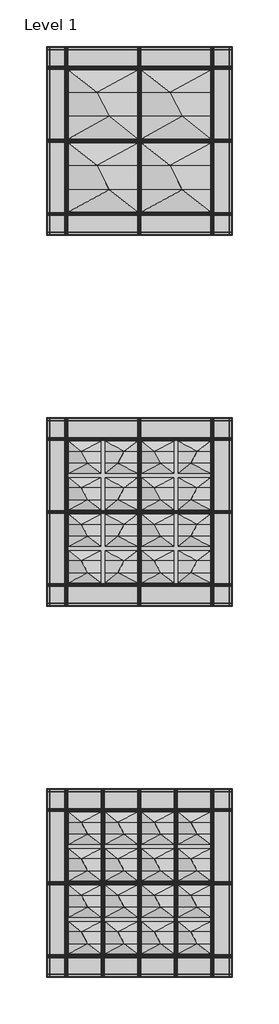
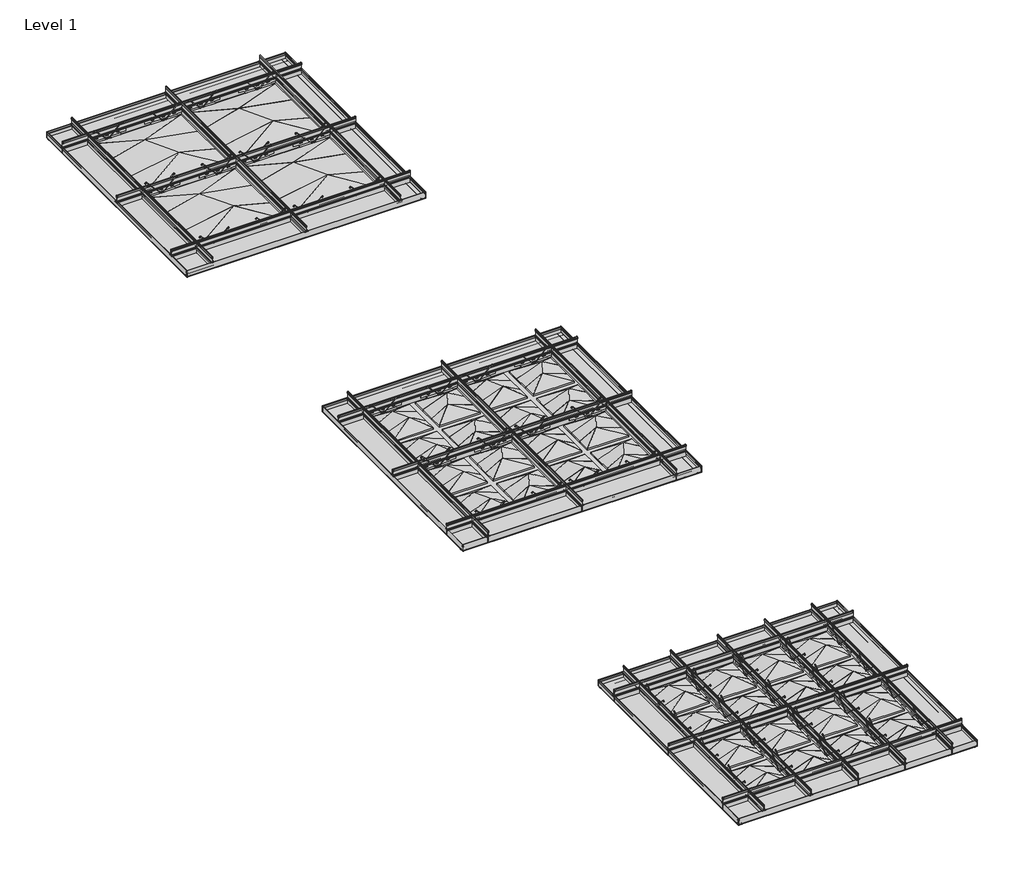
# One storey: 67 proxies.
"""IFC4 building model written with IfcOpenShell, lengths in millimetres."""

from ifc_helpers import new_model, si_unit, origin, place, context, project, spatial, transform, mapped, element, save
from components import generic_models_57989197, generic_models_a852b606, generic_models_ef213fe7, generic_models_b0d74349, generic_models_ea31196a, generic_models_f8d8eb25, generic_models_1ff93ce6, generic_models_fc730ad4, generic_models_915ab235, generic_models_51035367, generic_models_b4303d49

model = new_model("IFC4")

# Units and contexts
model_context = context("Model", 3, world=origin())
ifc_project = project(units=[si_unit("LENGTHUNIT", "METRE", prefix="MILLI")], contexts=[model_context])

# Site, building, storey
site = spatial("IfcSite", under=ifc_project)
building = spatial("IfcBuilding", under=site)
storey = spatial("IfcBuildingStorey", under=building, Name="Level 1", Elevation=0.0)

# Proxies
placement = place(None, origin())
generic_models_shape = generic_models_57989197(model_context)
generic_models_2_shape = generic_models_a852b606(model_context)
element("IfcBuildingElementProxy", 1, Name="Maxxit_Highland-Ceiling_rev-01 : Maxxit_Highland-Ceiling_Solo", ObjectType="Maxxit_Highland-Ceiling_rev-01 : Maxxit_Highland-Ceiling_Solo", at=placement, inside=storey, context=model_context, shape_type="MappedRepresentation", body=[
    mapped(generic_models_shape, transform((1882.0066774, 6086.1105581, 0.0), x_axis=(1.0, 0.0, 0.0), y_axis=(0.0, 1.0, 0.0), z_axis=(0.0, 0.0, 1.0))),
    mapped(generic_models_2_shape, transform((1882.0066774, 6086.1105581, 0.0), x_axis=(1.0, 0.0, 0.0), y_axis=(0.0, 1.0, 0.0), z_axis=(0.0, 0.0, 1.0))),
])
generic_models_3_shape = generic_models_ef213fe7(model_context)
generic_models_4_shape = generic_models_b0d74349(model_context)
generic_models_5_shape = generic_models_ea31196a(model_context)
element("IfcBuildingElementProxy", 2, Name="Maxxit_Highland-Ceiling_rev-01 : Maxxit_Highland-Ceiling_Quad", ObjectType="Maxxit_Highland-Ceiling_rev-01 : Maxxit_Highland-Ceiling_Quad", at=placement, inside=storey, context=model_context, shape_type="MappedRepresentation", body=[
    mapped(generic_models_3_shape, transform((1882.0066774, 2988.8980581, 0.0), x_axis=(1.0, 0.0, 0.0), y_axis=(0.0, 1.0, 0.0), z_axis=(0.0, 0.0, 1.0))),
    mapped(generic_models_4_shape, transform((1882.0066774, 2988.8980581, 0.0), x_axis=(1.0, 0.0, 0.0), y_axis=(0.0, 1.0, 0.0), z_axis=(0.0, 0.0, 1.0))),
    mapped(generic_models_5_shape, transform((1882.0066774, 2988.8980581, 0.0), x_axis=(1.0, 0.0, 0.0), y_axis=(0.0, 1.0, 0.0), z_axis=(0.0, 0.0, 1.0))),
])
generic_models_6_shape = generic_models_f8d8eb25(model_context)
generic_models_7_shape = generic_models_1ff93ce6(model_context)
generic_models_8_shape = generic_models_fc730ad4(model_context)
generic_models_9_shape = generic_models_915ab235(model_context)
element("IfcBuildingElementProxy", 3, Name="Maxxit_Highland-Ceiling_rev-01 : Maxxit_Highland-Ceiling_Duo", ObjectType="Maxxit_Highland-Ceiling_rev-01 : Maxxit_Highland-Ceiling_Duo", at=placement, inside=storey, context=model_context, shape_type="MappedRepresentation", body=[
    mapped(generic_models_6_shape, transform((1882.0066774, -108.3144419, 0.0), x_axis=(1.0, 0.0, 0.0), y_axis=(0.0, 1.0, 0.0), z_axis=(0.0, 0.0, 1.0))),
    mapped(generic_models_7_shape, transform((1882.0066774, -108.3144419, 0.0), x_axis=(1.0, 0.0, 0.0), y_axis=(0.0, 1.0, 0.0), z_axis=(0.0, 0.0, 1.0))),
    mapped(generic_models_8_shape, transform((1882.0066774, -108.3144419, 0.0), x_axis=(1.0, 0.0, 0.0), y_axis=(0.0, 1.0, 0.0), z_axis=(0.0, 0.0, 1.0))),
    mapped(generic_models_9_shape, transform((1882.0066774, -108.3144419, 0.0), x_axis=(1.0, 0.0, 0.0), y_axis=(0.0, 1.0, 0.0), z_axis=(0.0, 0.0, 1.0))),
])
generic_models_10_shape = generic_models_51035367(model_context)
element("IfcBuildingElementProxy", 4, Name="Agilis Panel Springs_Installed : Agilis Panel Springs_Installed", ObjectType="Agilis Panel Springs_Installed : Agilis Panel Springs_Installed", at=placement, inside=storey, context=model_context, shape_type="MappedRepresentation", body=[
    mapped(generic_models_10_shape, transform((2169.4879274, 7467.9855581, -3.0875), x_axis=(-1.0, 0.0, 0.0), y_axis=(0.0, -1.0, 0.0), z_axis=(0.0, 0.0, 1.0))),
])
element("IfcBuildingElementProxy", 5, Name="Agilis Panel Springs_Installed : Agilis Panel Springs_Installed", ObjectType="Agilis Panel Springs_Installed : Agilis Panel Springs_Installed", at=placement, inside=storey, context=model_context, shape_type="MappedRepresentation", body=[
    mapped(generic_models_10_shape, transform((2534.8379274, 6886.535565, -3.0875), x_axis=(1.0, 0.0, 0.0), y_axis=(0.0, 1.0, 0.0), z_axis=(0.0, 0.0, 1.0))),
])
element("IfcBuildingElementProxy", 6, Name="Agilis Panel Springs_Installed : Agilis Panel Springs_Installed", ObjectType="Agilis Panel Springs_Installed : Agilis Panel Springs_Installed", at=placement, inside=storey, context=model_context, shape_type="MappedRepresentation", body=[
    mapped(generic_models_10_shape, transform((2779.0879274, 7467.9855581, -3.0875), x_axis=(-1.0, 0.0, 0.0), y_axis=(0.0, -1.0, 0.0), z_axis=(0.0, 0.0, 1.0))),
])
element("IfcBuildingElementProxy", 7, Name="Agilis Panel Springs_Installed : Agilis Panel Springs_Installed", ObjectType="Agilis Panel Springs_Installed : Agilis Panel Springs_Installed", at=placement, inside=storey, context=model_context, shape_type="MappedRepresentation", body=[
    mapped(generic_models_10_shape, transform((3144.4379274, 6886.535565, -3.0875), x_axis=(1.0, 0.0, 0.0), y_axis=(0.0, 1.0, 0.0), z_axis=(0.0, 0.0, 1.0))),
])
element("IfcBuildingElementProxy", 8, Name="Agilis Panel Springs_Installed : Agilis Panel Springs_Installed", ObjectType="Agilis Panel Springs_Installed : Agilis Panel Springs_Installed", at=placement, inside=storey, context=model_context, shape_type="MappedRepresentation", body=[
    mapped(generic_models_10_shape, transform((2534.8379274, 6276.935565, -3.0875), x_axis=(1.0, 0.0, 0.0), y_axis=(0.0, 1.0, 0.0), z_axis=(0.0, 0.0, 1.0))),
])
element("IfcBuildingElementProxy", 9, Name="Agilis Panel Springs_Installed : Agilis Panel Springs_Installed", ObjectType="Agilis Panel Springs_Installed : Agilis Panel Springs_Installed", at=placement, inside=storey, context=model_context, shape_type="MappedRepresentation", body=[
    mapped(generic_models_10_shape, transform((2169.4879274, 6858.3855581, -3.0875), x_axis=(-1.0, 0.0, 0.0), y_axis=(0.0, -1.0, 0.0), z_axis=(0.0, 0.0, 1.0))),
])
element("IfcBuildingElementProxy", 10, Name="Agilis Panel Springs_Installed : Agilis Panel Springs_Installed", ObjectType="Agilis Panel Springs_Installed : Agilis Panel Springs_Installed", at=placement, inside=storey, context=model_context, shape_type="MappedRepresentation", body=[
    mapped(generic_models_10_shape, transform((3144.4379274, 6276.935565, -3.0875), x_axis=(1.0, 0.0, 0.0), y_axis=(0.0, 1.0, 0.0), z_axis=(0.0, 0.0, 1.0))),
])
element("IfcBuildingElementProxy", 11, Name="Agilis Panel Springs_Installed : Agilis Panel Springs_Installed", ObjectType="Agilis Panel Springs_Installed : Agilis Panel Springs_Installed", at=placement, inside=storey, context=model_context, shape_type="MappedRepresentation", body=[
    mapped(generic_models_10_shape, transform((2779.0879274, 6858.3855581, -3.0875), x_axis=(-1.0, 0.0, 0.0), y_axis=(0.0, -1.0, 0.0), z_axis=(0.0, 0.0, 1.0))),
])
element("IfcBuildingElementProxy", 12, Name="Agilis Panel Springs_Installed : Agilis Panel Springs_Installed", ObjectType="Agilis Panel Springs_Installed : Agilis Panel Springs_Installed", at=placement, inside=storey, context=model_context, shape_type="MappedRepresentation", body=[
    mapped(generic_models_10_shape, transform((2169.4879274, 4371.2855352, -3.0875), x_axis=(-1.0, 0.0, 0.0), y_axis=(0.0, -1.0, 0.0), z_axis=(0.0, 0.0, 1.0))),
])
element("IfcBuildingElementProxy", 13, Name="Agilis Panel Springs_Installed : Agilis Panel Springs_Installed", ObjectType="Agilis Panel Springs_Installed : Agilis Panel Springs_Installed", at=placement, inside=storey, context=model_context, shape_type="MappedRepresentation", body=[
    mapped(generic_models_10_shape, transform((2534.8379274, 3789.3025479, -3.0875), x_axis=(1.0, 0.0, 0.0), y_axis=(0.0, 1.0, 0.0), z_axis=(0.0, 0.0, 1.0))),
])
element("IfcBuildingElementProxy", 14, Name="Agilis Panel Springs_Installed : Agilis Panel Springs_Installed", ObjectType="Agilis Panel Springs_Installed : Agilis Panel Springs_Installed", at=placement, inside=storey, context=model_context, shape_type="MappedRepresentation", body=[
    mapped(generic_models_10_shape, transform((2779.0879274, 4371.2855352, -3.0875), x_axis=(-1.0, 0.0, 0.0), y_axis=(0.0, -1.0, 0.0), z_axis=(0.0, 0.0, 1.0))),
])
element("IfcBuildingElementProxy", 15, Name="Agilis Panel Springs_Installed : Agilis Panel Springs_Installed", ObjectType="Agilis Panel Springs_Installed : Agilis Panel Springs_Installed", at=placement, inside=storey, context=model_context, shape_type="MappedRepresentation", body=[
    mapped(generic_models_10_shape, transform((3144.4379274, 3789.3025479, -3.0875), x_axis=(1.0, 0.0, 0.0), y_axis=(0.0, 1.0, 0.0), z_axis=(0.0, 0.0, 1.0))),
])
element("IfcBuildingElementProxy", 16, Name="Agilis Panel Springs_Installed : Agilis Panel Springs_Installed", ObjectType="Agilis Panel Springs_Installed : Agilis Panel Springs_Installed", at=placement, inside=storey, context=model_context, shape_type="MappedRepresentation", body=[
    mapped(generic_models_10_shape, transform((2169.4879274, 3761.6855352, -3.0875), x_axis=(-1.0, 0.0, 0.0), y_axis=(0.0, -1.0, 0.0), z_axis=(0.0, 0.0, 1.0))),
])
element("IfcBuildingElementProxy", 17, Name="Agilis Panel Springs_Installed : Agilis Panel Springs_Installed", ObjectType="Agilis Panel Springs_Installed : Agilis Panel Springs_Installed", at=placement, inside=storey, context=model_context, shape_type="MappedRepresentation", body=[
    mapped(generic_models_10_shape, transform((2534.8379274, 3179.7025479, -3.0875), x_axis=(1.0, 0.0, 0.0), y_axis=(0.0, 1.0, 0.0), z_axis=(0.0, 0.0, 1.0))),
])
element("IfcBuildingElementProxy", 18, Name="Agilis Panel Springs_Installed : Agilis Panel Springs_Installed", ObjectType="Agilis Panel Springs_Installed : Agilis Panel Springs_Installed", at=placement, inside=storey, context=model_context, shape_type="MappedRepresentation", body=[
    mapped(generic_models_10_shape, transform((2779.0879274, 3761.6855352, -3.0875), x_axis=(-1.0, 0.0, 0.0), y_axis=(0.0, -1.0, 0.0), z_axis=(0.0, 0.0, 1.0))),
])
element("IfcBuildingElementProxy", 19, Name="Agilis Panel Springs_Installed : Agilis Panel Springs_Installed", ObjectType="Agilis Panel Springs_Installed : Agilis Panel Springs_Installed", at=placement, inside=storey, context=model_context, shape_type="MappedRepresentation", body=[
    mapped(generic_models_10_shape, transform((3144.4379274, 3179.7025479, -3.0875), x_axis=(1.0, 0.0, 0.0), y_axis=(0.0, 1.0, 0.0), z_axis=(0.0, 0.0, 1.0))),
])
element("IfcBuildingElementProxy", 20, Name="Agilis Panel Springs_Installed : Agilis Panel Springs_Installed", ObjectType="Agilis Panel Springs_Installed : Agilis Panel Springs_Installed", at=placement, inside=storey, context=model_context, shape_type="MappedRepresentation", body=[
    mapped(generic_models_10_shape, transform((2338.0223054, 1134.6980718, -3.0875), x_axis=(0.0, 1.0, 0.0), y_axis=(-1.0, 0.0, 0.0), z_axis=(0.0, 0.0, 1.0))),
])
element("IfcBuildingElementProxy", 21, Name="Agilis Panel Springs_Installed : Agilis Panel Springs_Installed", ObjectType="Agilis Panel Springs_Installed : Agilis Panel Springs_Installed", at=placement, inside=storey, context=model_context, shape_type="MappedRepresentation", body=[
    mapped(generic_models_10_shape, transform((2338.0223054, 831.5183045, -3.0875), x_axis=(0.0, 1.0, 0.0), y_axis=(-1.0, 0.0, 0.0), z_axis=(0.0, 0.0, 1.0))),
])
element("IfcBuildingElementProxy", 22, Name="Agilis Panel Springs_Installed : Agilis Panel Springs_Installed", ObjectType="Agilis Panel Springs_Installed : Agilis Panel Springs_Installed", at=placement, inside=storey, context=model_context, shape_type="MappedRepresentation", body=[
    mapped(generic_models_10_shape, transform((2642.8223054, 1134.6980718, -3.0875), x_axis=(0.0, 1.0, 0.0), y_axis=(-1.0, 0.0, 0.0), z_axis=(0.0, 0.0, 1.0))),
])
element("IfcBuildingElementProxy", 23, Name="Agilis Panel Springs_Installed : Agilis Panel Springs_Installed", ObjectType="Agilis Panel Springs_Installed : Agilis Panel Springs_Installed", at=placement, inside=storey, context=model_context, shape_type="MappedRepresentation", body=[
    mapped(generic_models_10_shape, transform((2642.8223054, 831.5183045, -3.0875), x_axis=(0.0, 1.0, 0.0), y_axis=(-1.0, 0.0, 0.0), z_axis=(0.0, 0.0, 1.0))),
])
element("IfcBuildingElementProxy", 24, Name="Agilis Panel Springs_Installed : Agilis Panel Springs_Installed", ObjectType="Agilis Panel Springs_Installed : Agilis Panel Springs_Installed", at=placement, inside=storey, context=model_context, shape_type="MappedRepresentation", body=[
    mapped(generic_models_10_shape, transform((2947.6223054, 1134.6980718, -3.0875), x_axis=(0.0, 1.0, 0.0), y_axis=(-1.0, 0.0, 0.0), z_axis=(0.0, 0.0, 1.0))),
])
element("IfcBuildingElementProxy", 25, Name="Agilis Panel Springs_Installed : Agilis Panel Springs_Installed", ObjectType="Agilis Panel Springs_Installed : Agilis Panel Springs_Installed", at=placement, inside=storey, context=model_context, shape_type="MappedRepresentation", body=[
    mapped(generic_models_10_shape, transform((2947.6223054, 831.5183045, -3.0875), x_axis=(0.0, 1.0, 0.0), y_axis=(-1.0, 0.0, 0.0), z_axis=(0.0, 0.0, 1.0))),
])
element("IfcBuildingElementProxy", 26, Name="Agilis Panel Springs_Installed : Agilis Panel Springs_Installed", ObjectType="Agilis Panel Springs_Installed : Agilis Panel Springs_Installed", at=placement, inside=storey, context=model_context, shape_type="MappedRepresentation", body=[
    mapped(generic_models_10_shape, transform((3252.4223054, 1134.6980718, -3.0875), x_axis=(0.0, 1.0, 0.0), y_axis=(-1.0, 0.0, 0.0), z_axis=(0.0, 0.0, 1.0))),
])
element("IfcBuildingElementProxy", 27, Name="Agilis Panel Springs_Installed : Agilis Panel Springs_Installed", ObjectType="Agilis Panel Springs_Installed : Agilis Panel Springs_Installed", at=placement, inside=storey, context=model_context, shape_type="MappedRepresentation", body=[
    mapped(generic_models_10_shape, transform((3252.4223054, 831.5183045, -3.0875), x_axis=(0.0, 1.0, 0.0), y_axis=(-1.0, 0.0, 0.0), z_axis=(0.0, 0.0, 1.0))),
])
element("IfcBuildingElementProxy", 28, Name="Agilis Panel Springs_Installed : Agilis Panel Springs_Installed", ObjectType="Agilis Panel Springs_Installed : Agilis Panel Springs_Installed", at=placement, inside=storey, context=model_context, shape_type="MappedRepresentation", body=[
    mapped(generic_models_10_shape, transform((3252.4223054, 525.1308319, -3.0875), x_axis=(0.0, 1.0, 0.0), y_axis=(-1.0, 0.0, 0.0), z_axis=(0.0, 0.0, 1.0))),
])
element("IfcBuildingElementProxy", 29, Name="Agilis Panel Springs_Installed : Agilis Panel Springs_Installed", ObjectType="Agilis Panel Springs_Installed : Agilis Panel Springs_Installed", at=placement, inside=storey, context=model_context, shape_type="MappedRepresentation", body=[
    mapped(generic_models_10_shape, transform((3252.4223054, 221.9510645, -3.0875), x_axis=(0.0, 1.0, 0.0), y_axis=(-1.0, 0.0, 0.0), z_axis=(0.0, 0.0, 1.0))),
])
element("IfcBuildingElementProxy", 30, Name="Agilis Panel Springs_Installed : Agilis Panel Springs_Installed", ObjectType="Agilis Panel Springs_Installed : Agilis Panel Springs_Installed", at=placement, inside=storey, context=model_context, shape_type="MappedRepresentation", body=[
    mapped(generic_models_10_shape, transform((2947.6223054, 525.1308319, -3.0875), x_axis=(0.0, 1.0, 0.0), y_axis=(-1.0, 0.0, 0.0), z_axis=(0.0, 0.0, 1.0))),
])
element("IfcBuildingElementProxy", 31, Name="Agilis Panel Springs_Installed : Agilis Panel Springs_Installed", ObjectType="Agilis Panel Springs_Installed : Agilis Panel Springs_Installed", at=placement, inside=storey, context=model_context, shape_type="MappedRepresentation", body=[
    mapped(generic_models_10_shape, transform((2947.6223054, 221.9510645, -3.0875), x_axis=(0.0, 1.0, 0.0), y_axis=(-1.0, 0.0, 0.0), z_axis=(0.0, 0.0, 1.0))),
])
element("IfcBuildingElementProxy", 32, Name="Agilis Panel Springs_Installed : Agilis Panel Springs_Installed", ObjectType="Agilis Panel Springs_Installed : Agilis Panel Springs_Installed", at=placement, inside=storey, context=model_context, shape_type="MappedRepresentation", body=[
    mapped(generic_models_10_shape, transform((2642.8223054, 525.1308319, -3.0875), x_axis=(0.0, 1.0, 0.0), y_axis=(-1.0, 0.0, 0.0), z_axis=(0.0, 0.0, 1.0))),
])
element("IfcBuildingElementProxy", 33, Name="Agilis Panel Springs_Installed : Agilis Panel Springs_Installed", ObjectType="Agilis Panel Springs_Installed : Agilis Panel Springs_Installed", at=placement, inside=storey, context=model_context, shape_type="MappedRepresentation", body=[
    mapped(generic_models_10_shape, transform((2642.8223054, 221.9510645, -3.0875), x_axis=(0.0, 1.0, 0.0), y_axis=(-1.0, 0.0, 0.0), z_axis=(0.0, 0.0, 1.0))),
])
element("IfcBuildingElementProxy", 34, Name="Agilis Panel Springs_Installed : Agilis Panel Springs_Installed", ObjectType="Agilis Panel Springs_Installed : Agilis Panel Springs_Installed", at=placement, inside=storey, context=model_context, shape_type="MappedRepresentation", body=[
    mapped(generic_models_10_shape, transform((2338.0223054, 525.1308319, -3.0875), x_axis=(0.0, 1.0, 0.0), y_axis=(-1.0, 0.0, 0.0), z_axis=(0.0, 0.0, 1.0))),
])
element("IfcBuildingElementProxy", 35, Name="Agilis Panel Springs_Installed : Agilis Panel Springs_Installed", ObjectType="Agilis Panel Springs_Installed : Agilis Panel Springs_Installed", at=placement, inside=storey, context=model_context, shape_type="MappedRepresentation", body=[
    mapped(generic_models_10_shape, transform((2338.0223054, 221.9510645, -3.0875), x_axis=(0.0, 1.0, 0.0), y_axis=(-1.0, 0.0, 0.0), z_axis=(0.0, 0.0, 1.0))),
])
generic_models_11_shape = generic_models_b4303d49(model_context)
element("IfcBuildingElementProxy", 36, Name="Agilis Panel Springs_Installed : Agilis Panel Springs_Installed", ObjectType="Agilis Panel Springs_Installed : Agilis Panel Springs_Installed", at=placement, inside=storey, context=model_context, shape_type="MappedRepresentation", body=[
    mapped(generic_models_11_shape, transform((2534.8379274, 7467.9855581, -3.0875), x_axis=(1.0, 0.0, 0.0), y_axis=(0.0, 1.0, 0.0), z_axis=(0.0, 0.0, 1.0))),
])
element("IfcBuildingElementProxy", 37, Name="Agilis Panel Springs_Installed : Agilis Panel Springs_Installed", ObjectType="Agilis Panel Springs_Installed : Agilis Panel Springs_Installed", at=placement, inside=storey, context=model_context, shape_type="MappedRepresentation", body=[
    mapped(generic_models_11_shape, transform((2169.4879274, 6886.535565, -3.0875), x_axis=(-1.0, 0.0, 0.0), y_axis=(0.0, -1.0, 0.0), z_axis=(0.0, 0.0, 1.0))),
])
element("IfcBuildingElementProxy", 38, Name="Agilis Panel Springs_Installed : Agilis Panel Springs_Installed", ObjectType="Agilis Panel Springs_Installed : Agilis Panel Springs_Installed", at=placement, inside=storey, context=model_context, shape_type="MappedRepresentation", body=[
    mapped(generic_models_11_shape, transform((3144.4379274, 7467.9855581, -3.0875), x_axis=(1.0, 0.0, 0.0), y_axis=(0.0, 1.0, 0.0), z_axis=(0.0, 0.0, 1.0))),
])
element("IfcBuildingElementProxy", 39, Name="Agilis Panel Springs_Installed : Agilis Panel Springs_Installed", ObjectType="Agilis Panel Springs_Installed : Agilis Panel Springs_Installed", at=placement, inside=storey, context=model_context, shape_type="MappedRepresentation", body=[
    mapped(generic_models_11_shape, transform((2779.0879274, 6886.535565, -3.0875), x_axis=(-1.0, 0.0, 0.0), y_axis=(0.0, -1.0, 0.0), z_axis=(0.0, 0.0, 1.0))),
])
element("IfcBuildingElementProxy", 40, Name="Agilis Panel Springs_Installed : Agilis Panel Springs_Installed", ObjectType="Agilis Panel Springs_Installed : Agilis Panel Springs_Installed", at=placement, inside=storey, context=model_context, shape_type="MappedRepresentation", body=[
    mapped(generic_models_11_shape, transform((2169.4879274, 6276.935565, -3.0875), x_axis=(-1.0, 0.0, 0.0), y_axis=(0.0, -1.0, 0.0), z_axis=(0.0, 0.0, 1.0))),
])
element("IfcBuildingElementProxy", 41, Name="Agilis Panel Springs_Installed : Agilis Panel Springs_Installed", ObjectType="Agilis Panel Springs_Installed : Agilis Panel Springs_Installed", at=placement, inside=storey, context=model_context, shape_type="MappedRepresentation", body=[
    mapped(generic_models_11_shape, transform((2534.8379274, 6858.3855581, -3.0875), x_axis=(1.0, 0.0, 0.0), y_axis=(0.0, 1.0, 0.0), z_axis=(0.0, 0.0, 1.0))),
])
element("IfcBuildingElementProxy", 42, Name="Agilis Panel Springs_Installed : Agilis Panel Springs_Installed", ObjectType="Agilis Panel Springs_Installed : Agilis Panel Springs_Installed", at=placement, inside=storey, context=model_context, shape_type="MappedRepresentation", body=[
    mapped(generic_models_11_shape, transform((2779.0879274, 6276.935565, -3.0875), x_axis=(-1.0, 0.0, 0.0), y_axis=(0.0, -1.0, 0.0), z_axis=(0.0, 0.0, 1.0))),
])
element("IfcBuildingElementProxy", 43, Name="Agilis Panel Springs_Installed : Agilis Panel Springs_Installed", ObjectType="Agilis Panel Springs_Installed : Agilis Panel Springs_Installed", at=placement, inside=storey, context=model_context, shape_type="MappedRepresentation", body=[
    mapped(generic_models_11_shape, transform((3144.4379274, 6858.3855581, -3.0875), x_axis=(1.0, 0.0, 0.0), y_axis=(0.0, 1.0, 0.0), z_axis=(0.0, 0.0, 1.0))),
])
element("IfcBuildingElementProxy", 44, Name="Agilis Panel Springs_Installed : Agilis Panel Springs_Installed", ObjectType="Agilis Panel Springs_Installed : Agilis Panel Springs_Installed", at=placement, inside=storey, context=model_context, shape_type="MappedRepresentation", body=[
    mapped(generic_models_11_shape, transform((2534.8379274, 4371.2855352, -3.0875), x_axis=(1.0, 0.0, 0.0), y_axis=(0.0, 1.0, 0.0), z_axis=(0.0, 0.0, 1.0))),
])
element("IfcBuildingElementProxy", 45, Name="Agilis Panel Springs_Installed : Agilis Panel Springs_Installed", ObjectType="Agilis Panel Springs_Installed : Agilis Panel Springs_Installed", at=placement, inside=storey, context=model_context, shape_type="MappedRepresentation", body=[
    mapped(generic_models_11_shape, transform((2169.4879274, 3789.3025479, -3.0875), x_axis=(-1.0, 0.0, 0.0), y_axis=(0.0, -1.0, 0.0), z_axis=(0.0, 0.0, 1.0))),
])
element("IfcBuildingElementProxy", 46, Name="Agilis Panel Springs_Installed : Agilis Panel Springs_Installed", ObjectType="Agilis Panel Springs_Installed : Agilis Panel Springs_Installed", at=placement, inside=storey, context=model_context, shape_type="MappedRepresentation", body=[
    mapped(generic_models_11_shape, transform((3144.4379274, 4371.2855352, -3.0875), x_axis=(1.0, 0.0, 0.0), y_axis=(0.0, 1.0, 0.0), z_axis=(0.0, 0.0, 1.0))),
])
element("IfcBuildingElementProxy", 47, Name="Agilis Panel Springs_Installed : Agilis Panel Springs_Installed", ObjectType="Agilis Panel Springs_Installed : Agilis Panel Springs_Installed", at=placement, inside=storey, context=model_context, shape_type="MappedRepresentation", body=[
    mapped(generic_models_11_shape, transform((2779.0879274, 3789.3025479, -3.0875), x_axis=(-1.0, 0.0, 0.0), y_axis=(0.0, -1.0, 0.0), z_axis=(0.0, 0.0, 1.0))),
])
element("IfcBuildingElementProxy", 48, Name="Agilis Panel Springs_Installed : Agilis Panel Springs_Installed", ObjectType="Agilis Panel Springs_Installed : Agilis Panel Springs_Installed", at=placement, inside=storey, context=model_context, shape_type="MappedRepresentation", body=[
    mapped(generic_models_11_shape, transform((2534.8379274, 3761.6855352, -3.0875), x_axis=(1.0, 0.0, 0.0), y_axis=(0.0, 1.0, 0.0), z_axis=(0.0, 0.0, 1.0))),
])
element("IfcBuildingElementProxy", 49, Name="Agilis Panel Springs_Installed : Agilis Panel Springs_Installed", ObjectType="Agilis Panel Springs_Installed : Agilis Panel Springs_Installed", at=placement, inside=storey, context=model_context, shape_type="MappedRepresentation", body=[
    mapped(generic_models_11_shape, transform((2169.4879274, 3179.7025479, -3.0875), x_axis=(-1.0, 0.0, 0.0), y_axis=(0.0, -1.0, 0.0), z_axis=(0.0, 0.0, 1.0))),
])
element("IfcBuildingElementProxy", 50, Name="Agilis Panel Springs_Installed : Agilis Panel Springs_Installed", ObjectType="Agilis Panel Springs_Installed : Agilis Panel Springs_Installed", at=placement, inside=storey, context=model_context, shape_type="MappedRepresentation", body=[
    mapped(generic_models_11_shape, transform((3144.4379274, 3761.6855352, -3.0875), x_axis=(1.0, 0.0, 0.0), y_axis=(0.0, 1.0, 0.0), z_axis=(0.0, 0.0, 1.0))),
])
element("IfcBuildingElementProxy", 51, Name="Agilis Panel Springs_Installed : Agilis Panel Springs_Installed", ObjectType="Agilis Panel Springs_Installed : Agilis Panel Springs_Installed", at=placement, inside=storey, context=model_context, shape_type="MappedRepresentation", body=[
    mapped(generic_models_11_shape, transform((2779.0879274, 3179.7025479, -3.0875), x_axis=(-1.0, 0.0, 0.0), y_axis=(0.0, -1.0, 0.0), z_axis=(0.0, 0.0, 1.0))),
])
element("IfcBuildingElementProxy", 52, Name="Agilis Panel Springs_Installed : Agilis Panel Springs_Installed", ObjectType="Agilis Panel Springs_Installed : Agilis Panel Springs_Installed", at=placement, inside=storey, context=model_context, shape_type="MappedRepresentation", body=[
    mapped(generic_models_11_shape, transform((2061.5035524, 1134.6980718, -3.0875), x_axis=(0.0, 1.0, 0.0), y_axis=(-1.0, 0.0, 0.0), z_axis=(0.0, 0.0, 1.0))),
])
element("IfcBuildingElementProxy", 53, Name="Agilis Panel Springs_Installed : Agilis Panel Springs_Installed", ObjectType="Agilis Panel Springs_Installed : Agilis Panel Springs_Installed", at=placement, inside=storey, context=model_context, shape_type="MappedRepresentation", body=[
    mapped(generic_models_11_shape, transform((2061.5035524, 831.5183045, -3.0875), x_axis=(0.0, 1.0, 0.0), y_axis=(-1.0, 0.0, 0.0), z_axis=(0.0, 0.0, 1.0))),
])
element("IfcBuildingElementProxy", 54, Name="Agilis Panel Springs_Installed : Agilis Panel Springs_Installed", ObjectType="Agilis Panel Springs_Installed : Agilis Panel Springs_Installed", at=placement, inside=storey, context=model_context, shape_type="MappedRepresentation", body=[
    mapped(generic_models_11_shape, transform((2366.3035524, 1134.6980718, -3.0875), x_axis=(0.0, 1.0, 0.0), y_axis=(-1.0, 0.0, 0.0), z_axis=(0.0, 0.0, 1.0))),
])
element("IfcBuildingElementProxy", 55, Name="Agilis Panel Springs_Installed : Agilis Panel Springs_Installed", ObjectType="Agilis Panel Springs_Installed : Agilis Panel Springs_Installed", at=placement, inside=storey, context=model_context, shape_type="MappedRepresentation", body=[
    mapped(generic_models_11_shape, transform((2366.3035524, 831.5183045, -3.0875), x_axis=(0.0, 1.0, 0.0), y_axis=(-1.0, 0.0, 0.0), z_axis=(0.0, 0.0, 1.0))),
])
element("IfcBuildingElementProxy", 56, Name="Agilis Panel Springs_Installed : Agilis Panel Springs_Installed", ObjectType="Agilis Panel Springs_Installed : Agilis Panel Springs_Installed", at=placement, inside=storey, context=model_context, shape_type="MappedRepresentation", body=[
    mapped(generic_models_11_shape, transform((2671.1035524, 1134.6980718, -3.0875), x_axis=(0.0, 1.0, 0.0), y_axis=(-1.0, 0.0, 0.0), z_axis=(0.0, 0.0, 1.0))),
])
element("IfcBuildingElementProxy", 57, Name="Agilis Panel Springs_Installed : Agilis Panel Springs_Installed", ObjectType="Agilis Panel Springs_Installed : Agilis Panel Springs_Installed", at=placement, inside=storey, context=model_context, shape_type="MappedRepresentation", body=[
    mapped(generic_models_11_shape, transform((2671.1035524, 831.5183045, -3.0875), x_axis=(0.0, 1.0, 0.0), y_axis=(-1.0, 0.0, 0.0), z_axis=(0.0, 0.0, 1.0))),
])
element("IfcBuildingElementProxy", 58, Name="Agilis Panel Springs_Installed : Agilis Panel Springs_Installed", ObjectType="Agilis Panel Springs_Installed : Agilis Panel Springs_Installed", at=placement, inside=storey, context=model_context, shape_type="MappedRepresentation", body=[
    mapped(generic_models_11_shape, transform((2975.9035524, 1134.6980718, -3.0875), x_axis=(0.0, 1.0, 0.0), y_axis=(-1.0, 0.0, 0.0), z_axis=(0.0, 0.0, 1.0))),
])
element("IfcBuildingElementProxy", 59, Name="Agilis Panel Springs_Installed : Agilis Panel Springs_Installed", ObjectType="Agilis Panel Springs_Installed : Agilis Panel Springs_Installed", at=placement, inside=storey, context=model_context, shape_type="MappedRepresentation", body=[
    mapped(generic_models_11_shape, transform((2975.9035524, 831.5183045, -3.0875), x_axis=(0.0, 1.0, 0.0), y_axis=(-1.0, 0.0, 0.0), z_axis=(0.0, 0.0, 1.0))),
])
element("IfcBuildingElementProxy", 60, Name="Agilis Panel Springs_Installed : Agilis Panel Springs_Installed", ObjectType="Agilis Panel Springs_Installed : Agilis Panel Springs_Installed", at=placement, inside=storey, context=model_context, shape_type="MappedRepresentation", body=[
    mapped(generic_models_11_shape, transform((2975.9035524, 525.1308319, -3.0875), x_axis=(0.0, 1.0, 0.0), y_axis=(-1.0, 0.0, 0.0), z_axis=(0.0, 0.0, 1.0))),
])
element("IfcBuildingElementProxy", 61, Name="Agilis Panel Springs_Installed : Agilis Panel Springs_Installed", ObjectType="Agilis Panel Springs_Installed : Agilis Panel Springs_Installed", at=placement, inside=storey, context=model_context, shape_type="MappedRepresentation", body=[
    mapped(generic_models_11_shape, transform((2975.9035524, 221.9510645, -3.0875), x_axis=(0.0, 1.0, 0.0), y_axis=(-1.0, 0.0, 0.0), z_axis=(0.0, 0.0, 1.0))),
])
element("IfcBuildingElementProxy", 62, Name="Agilis Panel Springs_Installed : Agilis Panel Springs_Installed", ObjectType="Agilis Panel Springs_Installed : Agilis Panel Springs_Installed", at=placement, inside=storey, context=model_context, shape_type="MappedRepresentation", body=[
    mapped(generic_models_11_shape, transform((2671.1035524, 525.1308319, -3.0875), x_axis=(0.0, 1.0, 0.0), y_axis=(-1.0, 0.0, 0.0), z_axis=(0.0, 0.0, 1.0))),
])
element("IfcBuildingElementProxy", 63, Name="Agilis Panel Springs_Installed : Agilis Panel Springs_Installed", ObjectType="Agilis Panel Springs_Installed : Agilis Panel Springs_Installed", at=placement, inside=storey, context=model_context, shape_type="MappedRepresentation", body=[
    mapped(generic_models_11_shape, transform((2671.1035524, 221.9510645, -3.0875), x_axis=(0.0, 1.0, 0.0), y_axis=(-1.0, 0.0, 0.0), z_axis=(0.0, 0.0, 1.0))),
])
element("IfcBuildingElementProxy", 64, Name="Agilis Panel Springs_Installed : Agilis Panel Springs_Installed", ObjectType="Agilis Panel Springs_Installed : Agilis Panel Springs_Installed", at=placement, inside=storey, context=model_context, shape_type="MappedRepresentation", body=[
    mapped(generic_models_11_shape, transform((2366.3035524, 525.1308319, -3.0875), x_axis=(0.0, 1.0, 0.0), y_axis=(-1.0, 0.0, 0.0), z_axis=(0.0, 0.0, 1.0))),
])
element("IfcBuildingElementProxy", 65, Name="Agilis Panel Springs_Installed : Agilis Panel Springs_Installed", ObjectType="Agilis Panel Springs_Installed : Agilis Panel Springs_Installed", at=placement, inside=storey, context=model_context, shape_type="MappedRepresentation", body=[
    mapped(generic_models_11_shape, transform((2366.3035524, 221.9510645, -3.0875), x_axis=(0.0, 1.0, 0.0), y_axis=(-1.0, 0.0, 0.0), z_axis=(0.0, 0.0, 1.0))),
])
element("IfcBuildingElementProxy", 66, Name="Agilis Panel Springs_Installed : Agilis Panel Springs_Installed", ObjectType="Agilis Panel Springs_Installed : Agilis Panel Springs_Installed", at=placement, inside=storey, context=model_context, shape_type="MappedRepresentation", body=[
    mapped(generic_models_11_shape, transform((2061.5035524, 525.1308319, -3.0875), x_axis=(0.0, 1.0, 0.0), y_axis=(-1.0, 0.0, 0.0), z_axis=(0.0, 0.0, 1.0))),
])
element("IfcBuildingElementProxy", 67, Name="Agilis Panel Springs_Installed : Agilis Panel Springs_Installed", ObjectType="Agilis Panel Springs_Installed : Agilis Panel Springs_Installed", at=placement, inside=storey, context=model_context, shape_type="MappedRepresentation", body=[
    mapped(generic_models_11_shape, transform((2061.5035524, 221.9510645, -3.0875), x_axis=(0.0, 1.0, 0.0), y_axis=(-1.0, 0.0, 0.0), z_axis=(0.0, 0.0, 1.0))),
])

save(model, "model.ifc")
